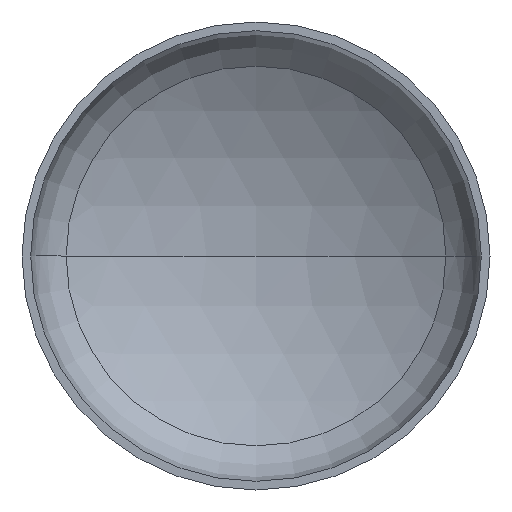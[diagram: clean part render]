
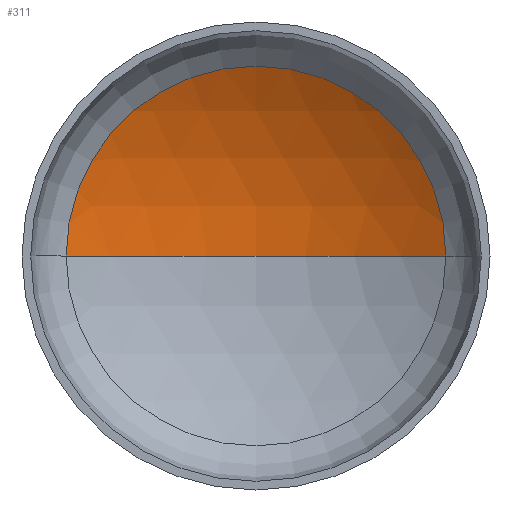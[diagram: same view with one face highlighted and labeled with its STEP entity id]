
A CAD part, front view. The second image highlights one B-rep face of the part: STEP entity #311.
In plain terms, the highlighted spherical face has radius 2240 mm.
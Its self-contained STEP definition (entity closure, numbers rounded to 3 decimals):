
#5 = AXIS2_PLACEMENT_3D ( 'NONE', #307, #148, #154 ) ;
#10 = ORIENTED_EDGE ( 'NONE', *, *, #226, .T. ) ;
#11 = VERTEX_POINT ( 'NONE', #373 ) ;
#16 = EDGE_LOOP ( 'NONE', ( #77, #10, #65 ) ) ;
#18 = AXIS2_PLACEMENT_3D ( 'NONE', #359, #235, #259 ) ;
#31 = AXIS2_PLACEMENT_3D ( 'NONE', #118, #119, #158 ) ;
#35 = AXIS2_PLACEMENT_3D ( 'NONE', #180, #181, #387 ) ;
#65 = ORIENTED_EDGE ( 'NONE', *, *, #209, .T. ) ;
#77 = ORIENTED_EDGE ( 'NONE', *, *, #365, .F. ) ;
#118 = CARTESIAN_POINT ( 'NONE',  ( 0., -1439.928, 0. ) ) ;
#119 = DIRECTION ( 'NONE',  ( 0., 0., -1. ) ) ;
#123 = VERTEX_POINT ( 'NONE', #215 ) ;
#141 = CIRCLE ( 'NONE', #5, 2240. ) ;
#148 = DIRECTION ( 'NONE',  ( 0., 0., 1. ) ) ;
#151 = VERTEX_POINT ( 'NONE', #192 ) ;
#154 = DIRECTION ( 'NONE',  ( 1., 0., 0. ) ) ;
#158 = DIRECTION ( 'NONE',  ( -1., 0., 0. ) ) ;
#180 = CARTESIAN_POINT ( 'NONE',  ( 0., 490.591, 0. ) ) ;
#181 = DIRECTION ( 'NONE',  ( 0., -1., 0. ) ) ;
#192 = CARTESIAN_POINT ( 'NONE',  ( -1136.088, 490.591, 0. ) ) ;
#209 = EDGE_CURVE ( 'NONE', #11, #151, #385, .T. ) ;
#215 = CARTESIAN_POINT ( 'NONE',  ( 0., 800.072, 0. ) ) ;
#226 = EDGE_CURVE ( 'NONE', #123, #11, #251, .T. ) ;
#235 = DIRECTION ( 'NONE',  ( 0., 0., -1. ) ) ;
#251 = CIRCLE ( 'NONE', #31, 2240. ) ;
#259 = DIRECTION ( 'NONE',  ( -1., 0., 0. ) ) ;
#307 = CARTESIAN_POINT ( 'NONE',  ( 0., -1439.928, 0. ) ) ;
#311 = ADVANCED_FACE ( 'NONE', ( #368 ), #363, .F. ) ;
#359 = CARTESIAN_POINT ( 'NONE',  ( 0., -1439.928, 0. ) ) ;
#363 = SPHERICAL_SURFACE ( 'NONE', #18, 2240. ) ;
#365 = EDGE_CURVE ( 'NONE', #123, #151, #141, .T. ) ;
#368 = FACE_OUTER_BOUND ( 'NONE', #16, .T. ) ;
#373 = CARTESIAN_POINT ( 'NONE',  ( 1136.088, 490.591, 0. ) ) ;
#385 = CIRCLE ( 'NONE', #35, 1136.088 ) ;
#387 = DIRECTION ( 'NONE',  ( 1., 0., 0. ) ) ;
